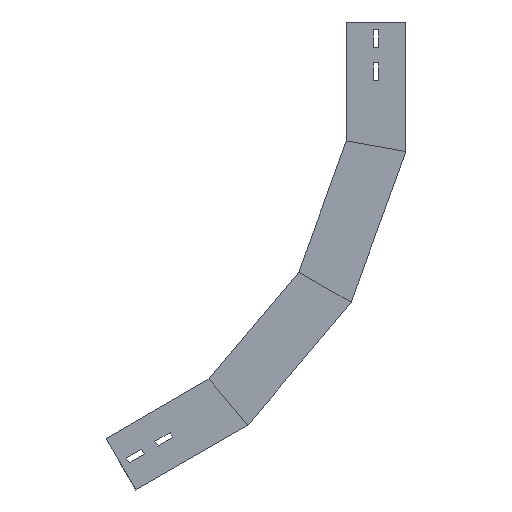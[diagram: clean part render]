
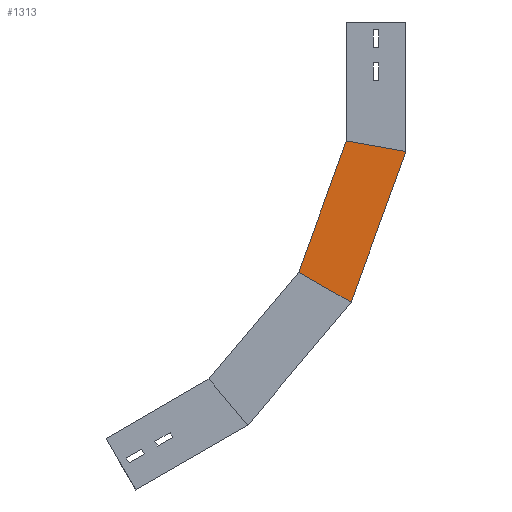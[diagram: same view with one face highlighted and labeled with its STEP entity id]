
A CAD part, left-side view. The second image highlights one B-rep face of the part: STEP entity #1313.
In plain terms, the highlighted planar face has unit normal (-1, 0, 0) as drawn and (1, 0, 0) by its records, which use the part's own axes.
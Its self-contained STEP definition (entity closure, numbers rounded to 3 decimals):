
#30 = VECTOR ( 'NONE', #819, 1000. ) ;
#116 = VERTEX_POINT ( 'NONE', #1498 ) ;
#144 = VERTEX_POINT ( 'NONE', #1103 ) ;
#155 = ORIENTED_EDGE ( 'NONE', *, *, #1017, .T. ) ;
#178 = LINE ( 'NONE', #346, #1402 ) ;
#181 = VERTEX_POINT ( 'NONE', #388 ) ;
#218 = LINE ( 'NONE', #536, #30 ) ;
#332 = AXIS2_PLACEMENT_3D ( 'NONE', #565, #408, #713 ) ;
#346 = CARTESIAN_POINT ( 'NONE',  ( 0., 69.156, -353.006 ) ) ;
#379 = CARTESIAN_POINT ( 'NONE',  ( 0., 69.156, -353.006 ) ) ;
#388 = CARTESIAN_POINT ( 'NONE',  ( 0., 135.11, -314.927 ) ) ;
#408 = DIRECTION ( 'NONE',  ( -1., 0., 0. ) ) ;
#434 = ORIENTED_EDGE ( 'NONE', *, *, #664, .F. ) ;
#456 = DIRECTION ( 'NONE',  ( 0., 0.643, -0.766 ) ) ;
#472 = VERTEX_POINT ( 'NONE', #379 ) ;
#493 = EDGE_LOOP ( 'NONE', ( #1550, #155, #583, #434 ) ) ;
#536 = CARTESIAN_POINT ( 'NONE',  ( 0., 99.564, -335.45 ) ) ;
#565 = CARTESIAN_POINT ( 'NONE',  ( 0., 69.156, -353.006 ) ) ;
#583 = ORIENTED_EDGE ( 'NONE', *, *, #961, .T. ) ;
#610 = LINE ( 'NONE', #1140, #863 ) ;
#664 = EDGE_CURVE ( 'NONE', #144, #116, #1368, .T. ) ;
#713 = DIRECTION ( 'NONE',  ( 0., 0., 1. ) ) ;
#744 = DIRECTION ( 'NONE',  ( 0., 0.643, -0.766 ) ) ;
#791 = VECTOR ( 'NONE', #1250, 1000. ) ;
#819 = DIRECTION ( 'NONE',  ( 0., -0.866, -0.5 ) ) ;
#863 = VECTOR ( 'NONE', #744, 1000. ) ;
#871 = CARTESIAN_POINT ( 'NONE',  ( 0., 221.697, -481.003 ) ) ;
#901 = EDGE_CURVE ( 'NONE', #181, #144, #610, .T. ) ;
#930 = PLANE ( 'NONE',  #332 ) ;
#961 = EDGE_CURVE ( 'NONE', #472, #116, #178, .T. ) ;
#1017 = EDGE_CURVE ( 'NONE', #181, #472, #218, .T. ) ;
#1103 = CARTESIAN_POINT ( 'NONE',  ( 0., 248.081, -449.56 ) ) ;
#1140 = CARTESIAN_POINT ( 'NONE',  ( 0., 126.61, -304.797 ) ) ;
#1250 = DIRECTION ( 'NONE',  ( 0., -0.643, -0.766 ) ) ;
#1313 = ADVANCED_FACE ( 'NONE', ( #1476 ), #930, .F. ) ;
#1368 = LINE ( 'NONE', #871, #791 ) ;
#1402 = VECTOR ( 'NONE', #456, 1000. ) ;
#1476 = FACE_OUTER_BOUND ( 'NONE', #493, .T. ) ;
#1498 = CARTESIAN_POINT ( 'NONE',  ( 0., 199.128, -507.9 ) ) ;
#1550 = ORIENTED_EDGE ( 'NONE', *, *, #901, .F. ) ;
